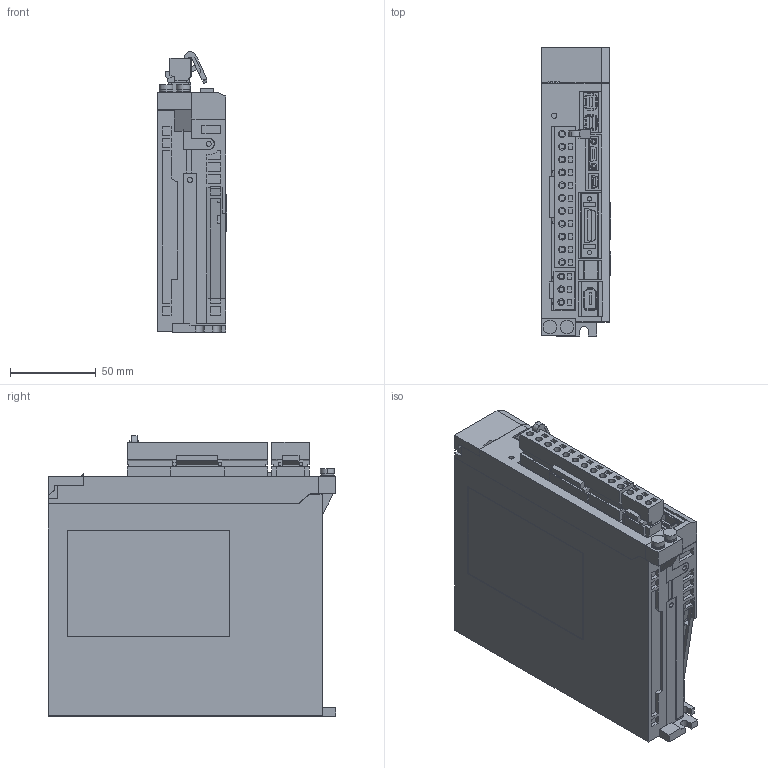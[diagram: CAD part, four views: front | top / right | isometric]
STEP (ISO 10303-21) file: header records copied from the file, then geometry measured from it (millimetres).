
FILE_DESCRIPTION (( 'STEP AP203' ), '1' );
FILE_NAME ('sgd7s_1r6a20a.STEP', '2014-03-06T04:29:43', ( '匠エンジニアリング山之内' ), ( 'TAKUMI-Engniaring' ), 'SwSTEP 2.0', 'SolidWorks 2006303', '' );
FILE_SCHEMA (( 'CONFIG_CONTROL_DESIGN' ));
Products named in the file (9): sgd7s_1r6a20a_connector_1; sgd7s_1r6a20a_cover; sgd7s_1r6a20a; sgd7s_1r6a20a_base; sgd7s_1r6a20a_connector; sgd7s_1r6a20a_connector_2; sgd7s_1r6a20a_pin; sgd7s_1r6a20a_cover2; sgd7s_1r6a20a_connector_3
Assembly tree (9 placements, depth 3):
  sgd7s_1r6a20a
    sgd7s_1r6a20a_base
    sgd7s_1r6a20a_connector
      sgd7s_1r6a20a_connector_2
      sgd7s_1r6a20a_pin
    sgd7s_1r6a20a_cover2  x2
    sgd7s_1r6a20a_connector_3
    sgd7s_1r6a20a_connector_1
    sgd7s_1r6a20a_cover
Bounding box: 40.5 x 168 x 163.83 mm (x, y, z)
Volume: 830385.5 mm3; surface area: 130445.4 mm2
Topology: 8 solids, 8 shells, 1776 faces, 4728 edges, 3111 vertices
Faces by surface type: plane 1630, cylinder 141, cone 4, sphere 1
Entity records: 54557 total; most frequent: CARTESIAN_POINT 9517, ORIENTED_EDGE 9348, DIRECTION 8504, EDGE_CURVE 4674, LINE 4380, VECTOR 4380, VERTEX_POINT 3075, AXIS2_PLACEMENT_3D 2062
